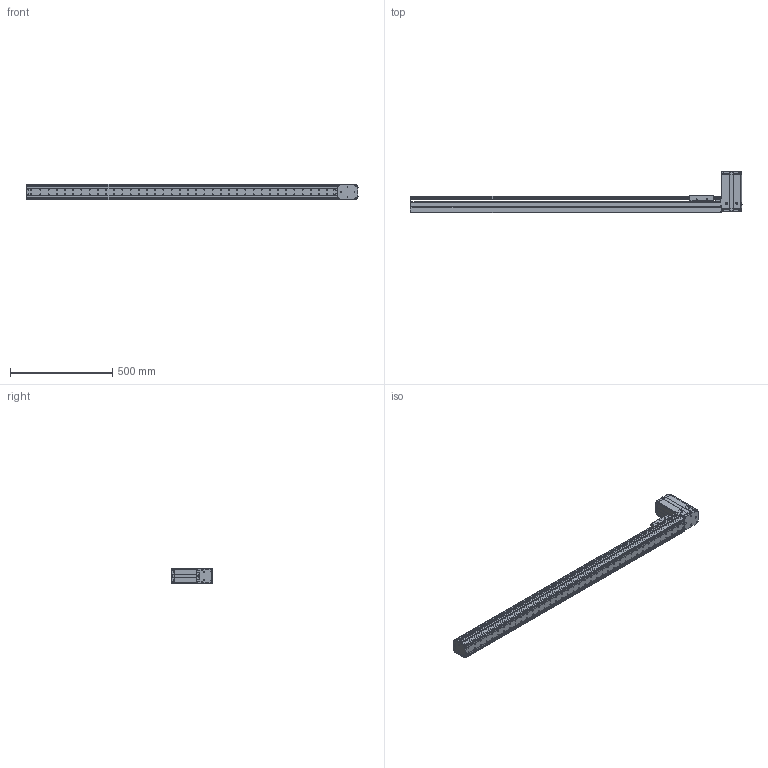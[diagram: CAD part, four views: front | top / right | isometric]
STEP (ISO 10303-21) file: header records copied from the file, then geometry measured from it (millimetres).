
FILE_DESCRIPTION((''),'2;1');
FILE_NAME('BE10_-BT-M_N-D0_IGS_PRT','2017-06-18T',(' '),(''),'PRO/ENGINEER BY PARAMETRIC TECHNOLOGY CORPORATION, 2015030','PRO/ENGINEER BY PARAMETRIC TECHNOLOGY CORPORATION, 2015030','');
FILE_SCHEMA(('CONFIG_CONTROL_DESIGN'));
Products named in the file (1): BE10_-BT-M_N-D0_IGS_PRT
Bounding box: 1620.8 x 204.72 x 78 mm (x, y, z)
Volume: 2281722.6 mm3; surface area: 1541583.6 mm2
Topology: 2 solids, 165 shells, 2262 faces, 6179 edges, 4093 vertices
Faces by surface type: plane 1064, cylinder 1031, cone 111, sphere 28, torus 25, bspline 3
Entity records: 73767 total; most frequent: CARTESIAN_POINT 15114, DIRECTION 12473, ORIENTED_EDGE 11662, EDGE_CURVE 6117, AXIS2_PLACEMENT_3D 4529, VERTEX_POINT 4093, VECTOR 3415, LINE 3415
